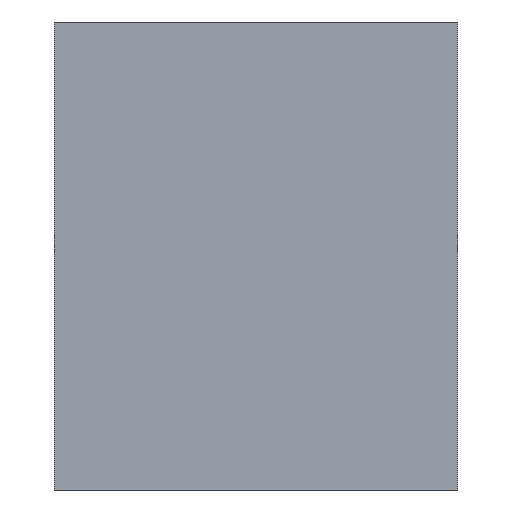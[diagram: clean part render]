
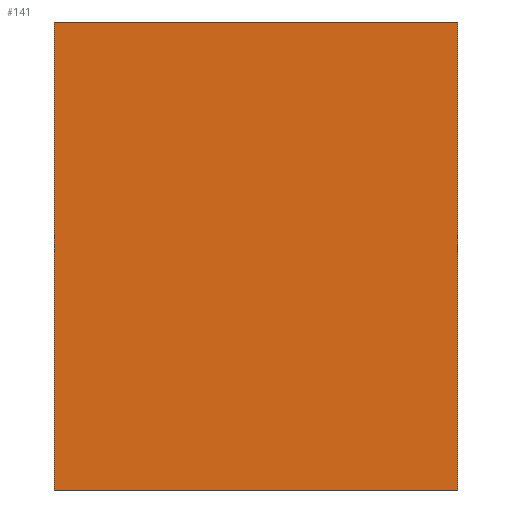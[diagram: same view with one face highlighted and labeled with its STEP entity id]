
A CAD part, front view. The second image highlights one B-rep face of the part: STEP entity #141.
In plain terms, the highlighted planar face has unit normal (0, -1, 0).
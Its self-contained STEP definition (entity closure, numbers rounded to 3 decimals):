
#15=LINE('',#213,#27);
#16=LINE('',#215,#28);
#17=LINE('',#217,#29);
#18=LINE('',#218,#30);
#27=VECTOR('',#177,10.);
#28=VECTOR('',#178,10.);
#29=VECTOR('',#179,10.);
#30=VECTOR('',#180,10.);
#39=PLANE('',#155);
#53=FACE_OUTER_BOUND('',#63,.T.);
#63=EDGE_LOOP('',(#109,#110,#111,#112));
#81=VERTEX_POINT('',#211);
#82=VERTEX_POINT('',#212);
#83=VERTEX_POINT('',#214);
#84=VERTEX_POINT('',#216);
#93=EDGE_CURVE('',#81,#82,#15,.T.);
#94=EDGE_CURVE('',#81,#83,#16,.T.);
#95=EDGE_CURVE('',#83,#84,#17,.T.);
#96=EDGE_CURVE('',#82,#84,#18,.T.);
#109=ORIENTED_EDGE('',*,*,#93,.F.);
#110=ORIENTED_EDGE('',*,*,#94,.T.);
#111=ORIENTED_EDGE('',*,*,#95,.T.);
#112=ORIENTED_EDGE('',*,*,#96,.F.);
#141=ADVANCED_FACE('',(#53),#39,.F.);
#155=AXIS2_PLACEMENT_3D('',#210,#175,#176);
#175=DIRECTION('center_axis',(0.,1.,0.));
#176=DIRECTION('ref_axis',(0.,0.,1.));
#177=DIRECTION('',(0.,0.,1.));
#178=DIRECTION('',(1.,0.,0.));
#179=DIRECTION('',(0.,0.,1.));
#180=DIRECTION('',(1.,0.,0.));
#210=CARTESIAN_POINT('Origin',(-55.007,19.619,-11.));
#211=CARTESIAN_POINT('',(-55.007,19.619,-11.));
#212=CARTESIAN_POINT('',(-55.007,19.619,-3.));
#213=CARTESIAN_POINT('',(-55.007,19.619,-11.));
#214=CARTESIAN_POINT('',(-48.107,19.619,-11.));
#215=CARTESIAN_POINT('',(-55.007,19.619,-11.));
#216=CARTESIAN_POINT('',(-48.107,19.619,-3.));
#217=CARTESIAN_POINT('',(-48.107,19.619,-11.));
#218=CARTESIAN_POINT('',(-55.007,19.619,-3.));
